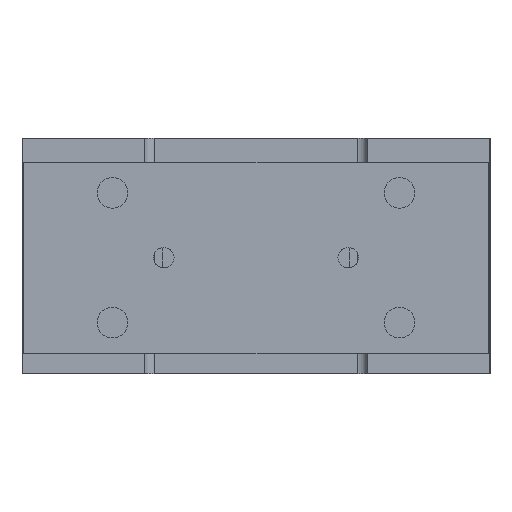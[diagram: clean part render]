
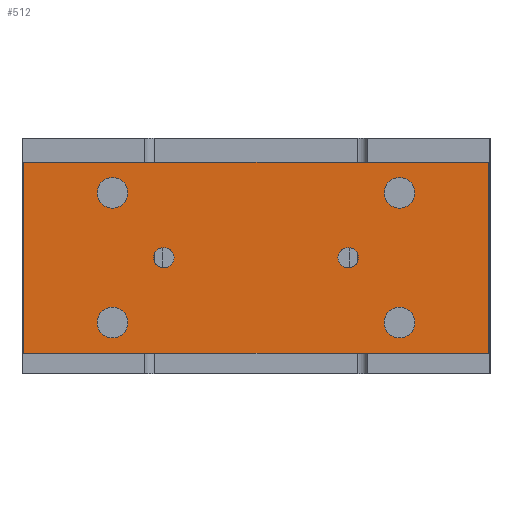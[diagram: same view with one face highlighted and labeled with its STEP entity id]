
A CAD part, left-side view. The second image highlights one B-rep face of the part: STEP entity #512.
In plain terms, the highlighted planar face has unit normal (-1, 0, 0).
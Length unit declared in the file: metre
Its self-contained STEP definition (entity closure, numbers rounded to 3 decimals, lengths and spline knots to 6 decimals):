
#512 = ADVANCED_FACE( '', ( #1202, #1203, #1204, #1205, #1206, #1207, #1208 ), #1209, .T. );
#1202 = FACE_BOUND( '', #2058, .T. );
#1203 = FACE_BOUND( '', #2059, .T. );
#1204 = FACE_BOUND( '', #2060, .T. );
#1205 = FACE_BOUND( '', #2061, .T. );
#1206 = FACE_BOUND( '', #2062, .T. );
#1207 = FACE_BOUND( '', #2063, .T. );
#1208 = FACE_OUTER_BOUND( '', #2064, .T. );
#1209 = PLANE( '', #2065 );
#2058 = EDGE_LOOP( '', ( #3379 ) );
#2059 = EDGE_LOOP( '', ( #3380 ) );
#2060 = EDGE_LOOP( '', ( #3381 ) );
#2061 = EDGE_LOOP( '', ( #3382 ) );
#2062 = EDGE_LOOP( '', ( #3383 ) );
#2063 = EDGE_LOOP( '', ( #3384 ) );
#2064 = EDGE_LOOP( '', ( #3385, #3386, #3387, #3388 ) );
#2065 = AXIS2_PLACEMENT_3D( '', #3389, #3390, #3391 );
#3379 = ORIENTED_EDGE( '', *, *, #4210, .F. );
#3380 = ORIENTED_EDGE( '', *, *, #4213, .F. );
#3381 = ORIENTED_EDGE( '', *, *, #4485, .F. );
#3382 = ORIENTED_EDGE( '', *, *, #4096, .F. );
#3383 = ORIENTED_EDGE( '', *, *, #4486, .F. );
#3384 = ORIENTED_EDGE( '', *, *, #4401, .T. );
#3385 = ORIENTED_EDGE( '', *, *, #4487, .T. );
#3386 = ORIENTED_EDGE( '', *, *, #4488, .T. );
#3387 = ORIENTED_EDGE( '', *, *, #4420, .T. );
#3388 = ORIENTED_EDGE( '', *, *, #4489, .T. );
#3389 = CARTESIAN_POINT( '', ( -0.1025, -0.068, -0.007 ) );
#3390 = DIRECTION( '', ( -1., 0., 0. ) );
#3391 = DIRECTION( '', ( 0., 0., 1. ) );
#4096 = EDGE_CURVE( '', #4730, #4730, #4731, .T. );
#4210 = EDGE_CURVE( '', #4915, #4915, #4916, .T. );
#4213 = EDGE_CURVE( '', #4920, #4920, #4921, .T. );
#4401 = EDGE_CURVE( '', #5214, #5214, #5215, .T. );
#4420 = EDGE_CURVE( '', #5242, #5240, #5243, .T. );
#4485 = EDGE_CURVE( '', #5327, #5327, #5328, .T. );
#4486 = EDGE_CURVE( '', #5329, #5329, #5330, .T. );
#4487 = EDGE_CURVE( '', #5331, #5332, #5333, .T. );
#4488 = EDGE_CURVE( '', #5332, #5242, #5334, .T. );
#4489 = EDGE_CURVE( '', #5240, #5331, #5335, .T. );
#4730 = VERTEX_POINT( '', #5635 );
#4731 = CIRCLE( '', #5636, 0.0045 );
#4915 = VERTEX_POINT( '', #5922 );
#4916 = CIRCLE( '', #5923, 0.0045 );
#4920 = VERTEX_POINT( '', #5927 );
#4921 = CIRCLE( '', #5928, 0.0045 );
#5214 = VERTEX_POINT( '', #6372 );
#5215 = CIRCLE( '', #6373, 0.003 );
#5240 = VERTEX_POINT( '', #6436 );
#5242 = VERTEX_POINT( '', #6439 );
#5243 = LINE( '', #6440, #6441 );
#5327 = VERTEX_POINT( '', #6543 );
#5328 = CIRCLE( '', #6544, 0.0045 );
#5329 = VERTEX_POINT( '', #6545 );
#5330 = CIRCLE( '', #6546, 0.003 );
#5331 = VERTEX_POINT( '', #6547 );
#5332 = VERTEX_POINT( '', #6548 );
#5333 = LINE( '', #6549, #6550 );
#5334 = LINE( '', #6551, #6552 );
#5335 = LINE( '', #6553, #6554 );
#5635 = CARTESIAN_POINT( '', ( -0.1025, 0.0375, -0.016 ) );
#5636 = AXIS2_PLACEMENT_3D( '', #6915, #6916, #6917 );
#5922 = CARTESIAN_POINT( '', ( -0.1025, -0.0465, -0.054 ) );
#5923 = AXIS2_PLACEMENT_3D( '', #7077, #7078, #7079 );
#5927 = CARTESIAN_POINT( '', ( -0.1025, 0.0375, -0.054 ) );
#5928 = AXIS2_PLACEMENT_3D( '', #7083, #7084, #7085 );
#6372 = CARTESIAN_POINT( '', ( -0.1025, 0.024, -0.035 ) );
#6373 = AXIS2_PLACEMENT_3D( '', #7315, #7316, #7317 );
#6436 = CARTESIAN_POINT( '', ( -0.1025, 0.068, -0.063 ) );
#6439 = CARTESIAN_POINT( '', ( -0.1025, 0.068, -0.007 ) );
#6440 = CARTESIAN_POINT( '', ( -0.1025, 0.068, -0.007 ) );
#6441 = VECTOR( '', #7333, 1. );
#6543 = CARTESIAN_POINT( '', ( -0.1025, -0.0465, -0.016 ) );
#6544 = AXIS2_PLACEMENT_3D( '', #7403, #7404, #7405 );
#6545 = CARTESIAN_POINT( '', ( -0.1025, -0.024, -0.035 ) );
#6546 = AXIS2_PLACEMENT_3D( '', #7406, #7407, #7408 );
#6547 = CARTESIAN_POINT( '', ( -0.1025, -0.068, -0.063 ) );
#6548 = CARTESIAN_POINT( '', ( -0.1025, -0.068, -0.007 ) );
#6549 = CARTESIAN_POINT( '', ( -0.1025, -0.068, -0.063 ) );
#6550 = VECTOR( '', #7409, 1. );
#6551 = CARTESIAN_POINT( '', ( -0.1025, -0.068, -0.007 ) );
#6552 = VECTOR( '', #7410, 1. );
#6553 = CARTESIAN_POINT( '', ( -0.1025, 0.068, -0.063 ) );
#6554 = VECTOR( '', #7411, 1. );
#6915 = CARTESIAN_POINT( '', ( -0.1025, 0.042, -0.016 ) );
#6916 = DIRECTION( '', ( -1., 0., 0. ) );
#6917 = DIRECTION( '', ( 0., -1., 0. ) );
#7077 = CARTESIAN_POINT( '', ( -0.1025, -0.042, -0.054 ) );
#7078 = DIRECTION( '', ( -1., 0., 0. ) );
#7079 = DIRECTION( '', ( 0., -1., 0. ) );
#7083 = CARTESIAN_POINT( '', ( -0.1025, 0.042, -0.054 ) );
#7084 = DIRECTION( '', ( -1., 0., 0. ) );
#7085 = DIRECTION( '', ( 0., -1., 0. ) );
#7315 = CARTESIAN_POINT( '', ( -0.1025, 0.027, -0.035 ) );
#7316 = DIRECTION( '', ( 1., 0., 0. ) );
#7317 = DIRECTION( '', ( 0., -1., 0. ) );
#7333 = DIRECTION( '', ( 0., 0., -1. ) );
#7403 = CARTESIAN_POINT( '', ( -0.1025, -0.042, -0.016 ) );
#7404 = DIRECTION( '', ( -1., 0., 0. ) );
#7405 = DIRECTION( '', ( 0., -1., 0. ) );
#7406 = CARTESIAN_POINT( '', ( -0.1025, -0.027, -0.035 ) );
#7407 = DIRECTION( '', ( -1., 0., 0. ) );
#7408 = DIRECTION( '', ( 0., 1., 0. ) );
#7409 = DIRECTION( '', ( 0., 0., 1. ) );
#7410 = DIRECTION( '', ( 0., 1., 0. ) );
#7411 = DIRECTION( '', ( 0., -1., 0. ) );
